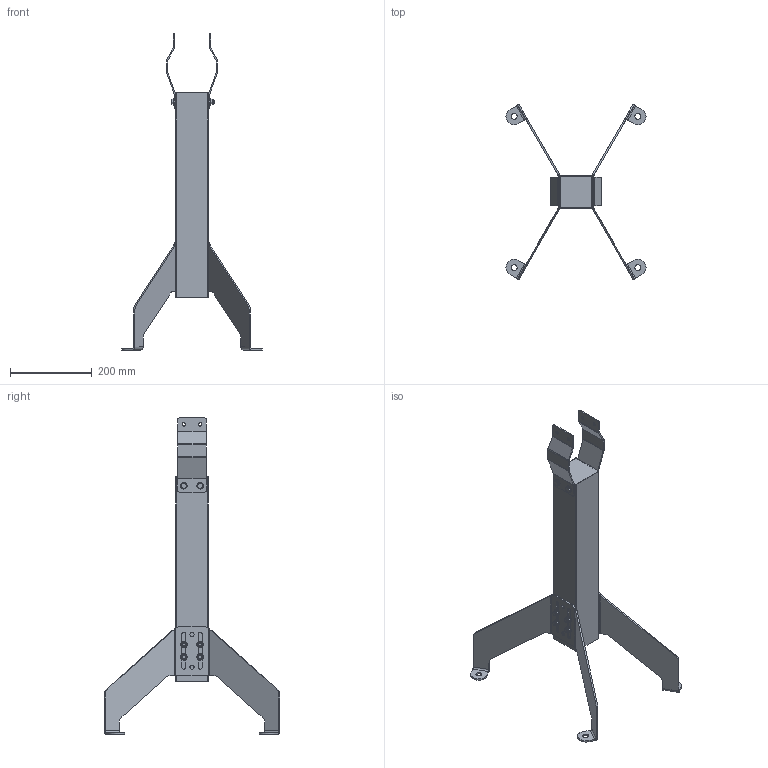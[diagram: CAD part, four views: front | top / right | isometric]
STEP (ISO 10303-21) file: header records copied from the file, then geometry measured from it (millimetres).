
FILE_DESCRIPTION(/* description */ ('LEG SUPPORT S530'),/* implementation_level */ '2;1');
FILE_NAME(/* name */ '500-1370.stp',/* time_stamp */ '2022-09-16T09:41:04+02:00',/* author */ ('PL'),/* organization */ ('CARRYLINE'),/* preprocessor_version */ 'ST-DEVELOPER v19.2',/* originating_system */ 'Autodesk Inventor 2023',/* authorisation */ '');
FILE_SCHEMA (('AUTOMOTIVE_DESIGN { 1 0 10303 214 3 1 1 }'));
Length unit declared in the file: millimetre
Products named in the file (8): 500-1370; 500-1230; 500-1030; 5540-8; 5501-8100; 500-1155; WELDING BOLT M8x16; 5552-8
Assembly tree (37 placements, depth 2):
  500-1370
    500-1230  x2
    500-1030
    5540-8  x12
    5501-8100  x2
    5552-8  x10
    500-1155  x2
    WELDING BOLT M8x16  x8
Bounding box: 342.35 x 429.19 x 773.56 mm (x, y, z)
Volume: 844519.6 mm3; surface area: 624621.8 mm2
Topology: 37 solids, 37 shells, 453 faces, 1072 edges, 698 vertices
Faces by surface type: plane 231, cylinder 148, cone 70, bspline 4
Full cylindrical faces by diameter (mm): 6.647 x10, 8 x10, 8.2 x8, 8.4 x12, 9 x4, 10 x4, 11.6 x10, 11.63 x2, 14.2 x4, 16 x12
Entity records: 5168 total; most frequent: CARTESIAN_POINT 1040, DIRECTION 846, ORIENTED_EDGE 742, EDGE_CURVE 371, AXIS2_PLACEMENT_3D 315, VERTEX_POINT 243, LINE 216, VECTOR 216
